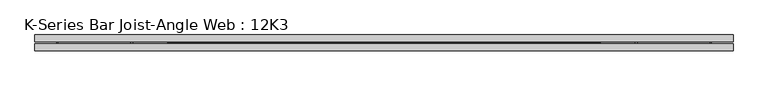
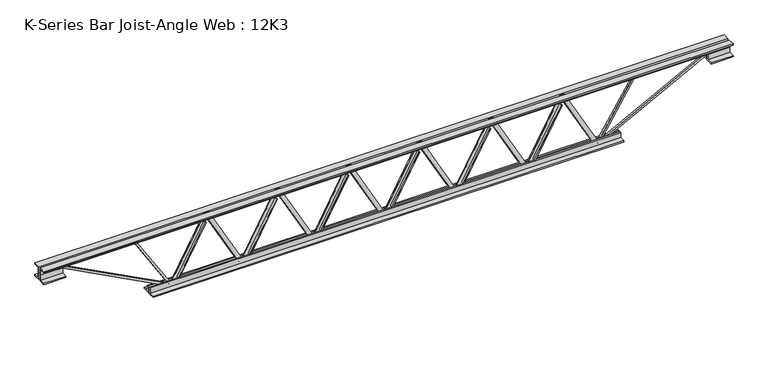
"""IFC4 building model written with IfcOpenShell, lengths in millimetres: beam geometry, K-Series Bar Joist-Angle Web : 12K3."""

from ifc_helpers import new_model, si_unit, frame, origin, place, context, project, spatial, polyline, outline, extrude, faceted_brep, source, transform, mapped, element, save


def k_series_bar_joist_angle_web_12k3_6a532fcc(model_context):
    return source(origin(), model_context, "Body", "SolidModel", [
        extrude(outline(polyline([(-4.7625, 4.7625), (-4.7625, 0.0), (-17.4625, 0.0), (-17.4625, 4.7625), (-4.7625, 4.7625)])), frame((630.375603, 0.0, -114.3), z_axis=(-0.47949246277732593, 0.0, 0.8775459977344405), x_axis=(0.0, -1.0, 0.0)), (0.0, 0.0, 1.0), 260.4991654),
        extrude(outline(polyline([(-149.225, 661.4583333), (-130.175, 661.4583333), (-130.175, 660.7579908), (149.225, 508.0934075), (149.225, 489.74375), (130.175, 489.74375), (130.175, 496.7940925), (-149.225, 649.4586759), (-149.225, 661.4583333)])), frame((0.0, 0.0, 0.0), z_axis=(0.0, 1.0, 0.0), x_axis=(0.0, 0.0, 1.0)), (0.0, 0.0, 1.0), 4.7625),
        faceted_brep([(330.7291667, 0.0, -130.175), (330.7291667, 0.0, -149.225), (330.7291667, -4.7625, -149.225), (330.7291667, -4.7625, -130.175), (331.4295092, 0.0, -130.175), (484.0940925, 0.0, 149.225), (502.44375, 0.0, 149.225), (502.44375, 0.0, 130.175), (495.3934075, 0.0, 130.175), (342.7288241, 0.0, -149.225), (342.7288241, -4.7625, -149.225), (361.811897, -4.7625, -114.3), (357.6325842, -4.7625, -112.0164171), (482.5399706, -4.7625, 116.5835829), (486.7192834, -4.7625, 114.3), (495.3934075, -4.7625, 130.175), (502.44375, -4.7625, 130.175), (502.44375, -4.7625, 149.225), (484.0940925, -4.7625, 149.225), (331.4295092, -4.7625, -130.175), (486.7192834, -17.4625, 114.3), (361.811897, -17.4625, -114.3), (357.6325842, -17.4625, -112.0164171), (482.5399706, -17.4625, 116.5835829)], [[[0, 1, 2, 3]], [[1, 0, 4, 5, 6, 7, 8, 9]], [[2, 1, 9, 10]], [[3, 2, 10, 11, 12, 13, 14, 15, 16, 17, 18, 19]], [[0, 3, 19, 4]], [[9, 8, 15, 14, 20, 21, 11, 10]], [[5, 4, 19, 18]], [[7, 6, 17, 16]], [[8, 7, 16, 15]], [[6, 5, 18, 17]], [[21, 22, 12, 11]], [[20, 14, 13, 23]], [[22, 21, 20, 23]], [[12, 22, 23, 13]]]),
        extrude(outline(polyline([(-4.7625, 4.7625), (-4.7625, 0.0), (-17.4625, 0.0), (-17.4625, 4.7625), (-4.7625, 4.7625)])), frame((299.6464363, 0.0, -114.3), z_axis=(-0.47949246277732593, 0.0, 0.8775459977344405), x_axis=(0.0, -1.0, 0.0)), (0.0, 0.0, 1.0), 260.4991654),
        extrude(outline(polyline([(-149.225, 330.7291667), (-130.175, 330.7291667), (-130.175, 330.0288241), (149.225, 177.3642408), (149.225, 159.0145833), (130.175, 159.0145833), (130.175, 166.0649259), (-149.225, 318.7295092), (-149.225, 330.7291667)])), frame((0.0, 0.0, 0.0), z_axis=(0.0, 1.0, 0.0), x_axis=(0.0, 0.0, 1.0)), (0.0, 0.0, 1.0), 4.7625),
        faceted_brep([(0.0, 0.0, -130.175), (0.0, 0.0, -149.225), (0.0, -4.7625, -149.225), (0.0, -4.7625, -130.175), (0.7003425, 0.0, -130.175), (153.3649259, 0.0, 149.225), (171.7145833, 0.0, 149.225), (171.7145833, 0.0, 130.175), (164.6642408, 0.0, 130.175), (11.9996575, 0.0, -149.225), (11.9996575, -4.7625, -149.225), (31.0827304, -4.7625, -114.3), (26.9034176, -4.7625, -112.0164171), (151.8108039, -4.7625, 116.5835829), (155.9901167, -4.7625, 114.3), (164.6642408, -4.7625, 130.175), (171.7145833, -4.7625, 130.175), (171.7145833, -4.7625, 149.225), (153.3649259, -4.7625, 149.225), (0.7003425, -4.7625, -130.175), (155.9901167, -17.4625, 114.3), (31.0827304, -17.4625, -114.3), (26.9034176, -17.4625, -112.0164171), (151.8108039, -17.4625, 116.5835829)], [[[0, 1, 2, 3]], [[1, 0, 4, 5, 6, 7, 8, 9]], [[2, 1, 9, 10]], [[3, 2, 10, 11, 12, 13, 14, 15, 16, 17, 18, 19]], [[0, 3, 19, 4]], [[9, 8, 15, 14, 20, 21, 11, 10]], [[5, 4, 19, 18]], [[7, 6, 17, 16]], [[8, 7, 16, 15]], [[6, 5, 18, 17]], [[21, 22, 12, 11]], [[20, 14, 13, 23]], [[22, 21, 20, 23]], [[12, 22, 23, 13]]]),
        extrude(outline(polyline([(-4.7625, 4.7625), (-4.7625, 0.0), (-17.4625, 0.0), (-17.4625, 4.7625), (-4.7625, 4.7625)])), frame((-31.0827304, 0.0, -114.3), z_axis=(-0.47949246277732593, 0.0, 0.8775459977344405), x_axis=(0.0, -1.0, 0.0)), (0.0, 0.0, 1.0), 260.4991654),
        extrude(outline(polyline([(-149.225, 0.0), (-130.175, 0.0), (-130.175, -0.7003425), (149.225, -153.3649259), (149.225, -171.7145833), (130.175, -171.7145833), (130.175, -164.6642408), (-149.225, -11.9996575), (-149.225, 0.0)])), frame((0.0, 0.0, 0.0), z_axis=(0.0, 1.0, 0.0), x_axis=(0.0, 0.0, 1.0)), (0.0, 0.0, 1.0), 4.7625),
        faceted_brep([(-330.7291667, 0.0, -130.175), (-330.7291667, 0.0, -149.225), (-330.7291667, -4.7625, -149.225), (-330.7291667, -4.7625, -130.175), (-330.0288241, 0.0, -130.175), (-177.3642408, 0.0, 149.225), (-159.0145833, 0.0, 149.225), (-159.0145833, 0.0, 130.175), (-166.0649259, 0.0, 130.175), (-318.7295092, 0.0, -149.225), (-318.7295092, -4.7625, -149.225), (-299.6464363, -4.7625, -114.3), (-303.8257491, -4.7625, -112.0164171), (-178.9183627, -4.7625, 116.5835829), (-174.7390499, -4.7625, 114.3), (-166.0649259, -4.7625, 130.175), (-159.0145833, -4.7625, 130.175), (-159.0145833, -4.7625, 149.225), (-177.3642408, -4.7625, 149.225), (-330.0288241, -4.7625, -130.175), (-174.7390499, -17.4625, 114.3), (-299.6464363, -17.4625, -114.3), (-303.8257491, -17.4625, -112.0164171), (-178.9183627, -17.4625, 116.5835829)], [[[0, 1, 2, 3]], [[1, 0, 4, 5, 6, 7, 8, 9]], [[2, 1, 9, 10]], [[3, 2, 10, 11, 12, 13, 14, 15, 16, 17, 18, 19]], [[0, 3, 19, 4]], [[9, 8, 15, 14, 20, 21, 11, 10]], [[5, 4, 19, 18]], [[7, 6, 17, 16]], [[8, 7, 16, 15]], [[6, 5, 18, 17]], [[21, 22, 12, 11]], [[20, 14, 13, 23]], [[22, 21, 20, 23]], [[12, 22, 23, 13]]]),
        extrude(outline(polyline([(-4.7625, 4.7625), (-4.7625, 0.0), (-17.4625, 0.0), (-17.4625, 4.7625), (-4.7625, 4.7625)])), frame((-361.811897, 0.0, -114.3), z_axis=(-0.47949246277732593, 0.0, 0.8775459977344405), x_axis=(0.0, -1.0, 0.0)), (0.0, 0.0, 1.0), 260.4991654),
        extrude(outline(polyline([(-149.225, -330.7291667), (-130.175, -330.7291667), (-130.175, -331.4295092), (149.225, -484.0940925), (149.225, -502.44375), (130.175, -502.44375), (130.175, -495.3934075), (-149.225, -342.7288241), (-149.225, -330.7291667)])), frame((0.0, 0.0, 0.0), z_axis=(0.0, 1.0, 0.0), x_axis=(0.0, 0.0, 1.0)), (0.0, 0.0, 1.0), 4.7625),
        faceted_brep([(-661.4583333, 0.0, -130.175), (-661.4583333, 0.0, -149.225), (-661.4583333, -4.7625, -149.225), (-661.4583333, -4.7625, -130.175), (-660.7579908, 0.0, -130.175), (-508.0934075, 0.0, 149.225), (-489.74375, 0.0, 149.225), (-489.74375, 0.0, 130.175), (-496.7940925, 0.0, 130.175), (-649.4586759, 0.0, -149.225), (-649.4586759, -4.7625, -149.225), (-630.375603, -4.7625, -114.3), (-634.5549158, -4.7625, -112.0164171), (-509.6475294, -4.7625, 116.5835829), (-505.4682166, -4.7625, 114.3), (-496.7940925, -4.7625, 130.175), (-489.74375, -4.7625, 130.175), (-489.74375, -4.7625, 149.225), (-508.0934075, -4.7625, 149.225), (-660.7579908, -4.7625, -130.175), (-505.4682166, -17.4625, 114.3), (-630.375603, -17.4625, -114.3), (-634.5549158, -17.4625, -112.0164171), (-509.6475294, -17.4625, 116.5835829)], [[[0, 1, 2, 3]], [[1, 0, 4, 5, 6, 7, 8, 9]], [[2, 1, 9, 10]], [[3, 2, 10, 11, 12, 13, 14, 15, 16, 17, 18, 19]], [[0, 3, 19, 4]], [[9, 8, 15, 14, 20, 21, 11, 10]], [[5, 4, 19, 18]], [[7, 6, 17, 16]], [[8, 7, 16, 15]], [[6, 5, 18, 17]], [[21, 22, 12, 11]], [[20, 14, 13, 23]], [[22, 21, 20, 23]], [[12, 22, 23, 13]]]),
        extrude(outline(polyline([(-4.7625, 4.7625), (-4.7625, 0.0), (-17.4625, 0.0), (-17.4625, 4.7625), (-4.7625, 4.7625)])), frame((961.1047696, 0.0, -114.3), z_axis=(-0.47949246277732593, 0.0, 0.8775459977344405), x_axis=(0.0, -1.0, 0.0)), (0.0, 0.0, 1.0), 260.4991654),
        extrude(outline(polyline([(-149.225, 992.1875), (-130.175, 992.1875), (-130.175, 991.4871575), (149.225, 838.8225741), (149.225, 820.4729167), (130.175, 820.4729167), (130.175, 827.5232592), (-149.225, 980.1878425), (-149.225, 992.1875)])), frame((0.0, 0.0, 0.0), z_axis=(0.0, 1.0, 0.0), x_axis=(0.0, 0.0, 1.0)), (0.0, 0.0, 1.0), 4.7625),
        faceted_brep([(661.4583333, 0.0, -130.175), (661.4583333, 0.0, -149.225), (661.4583333, -4.7625, -149.225), (661.4583333, -4.7625, -130.175), (662.1586759, 0.0, -130.175), (814.8232592, 0.0, 149.225), (833.1729167, 0.0, 149.225), (833.1729167, 0.0, 130.175), (826.1225741, 0.0, 130.175), (673.4579908, 0.0, -149.225), (673.4579908, -4.7625, -149.225), (692.5410637, -4.7625, -114.3), (688.3617509, -4.7625, -112.0164171), (813.2691373, -4.7625, 116.5835829), (817.4484501, -4.7625, 114.3), (826.1225741, -4.7625, 130.175), (833.1729167, -4.7625, 130.175), (833.1729167, -4.7625, 149.225), (814.8232592, -4.7625, 149.225), (662.1586759, -4.7625, -130.175), (817.4484501, -17.4625, 114.3), (692.5410637, -17.4625, -114.3), (688.3617509, -17.4625, -112.0164171), (813.2691373, -17.4625, 116.5835829)], [[[0, 1, 2, 3]], [[1, 0, 4, 5, 6, 7, 8, 9]], [[2, 1, 9, 10]], [[3, 2, 10, 11, 12, 13, 14, 15, 16, 17, 18, 19]], [[0, 3, 19, 4]], [[9, 8, 15, 14, 20, 21, 11, 10]], [[5, 4, 19, 18]], [[7, 6, 17, 16]], [[8, 7, 16, 15]], [[6, 5, 18, 17]], [[21, 22, 12, 11]], [[20, 14, 13, 23]], [[22, 21, 20, 23]], [[12, 22, 23, 13]]]),
        extrude(outline(polyline([(-4.7625, 4.7625), (-4.7625, 0.0), (-17.4625, 0.0), (-17.4625, 4.7625), (-4.7625, 4.7625)])), frame((-692.5410637, 0.0, -114.3), z_axis=(-0.47949246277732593, 0.0, 0.8775459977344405), x_axis=(0.0, -1.0, 0.0)), (0.0, 0.0, 1.0), 260.4991654),
        extrude(outline(polyline([(-149.225, -661.4583333), (-130.175, -661.4583333), (-130.175, -662.1586759), (149.225, -814.8232592), (149.225, -833.1729167), (130.175, -833.1729167), (130.175, -826.1225741), (-149.225, -673.4579908), (-149.225, -661.4583333)])), frame((0.0, 0.0, 0.0), z_axis=(0.0, 1.0, 0.0), x_axis=(0.0, 0.0, 1.0)), (0.0, 0.0, 1.0), 4.7625),
        faceted_brep([(-992.1875, 0.0, -130.175), (-992.1875, 0.0, -149.225), (-992.1875, -4.7625, -149.225), (-992.1875, -4.7625, -130.175), (-991.4871575, 0.0, -130.175), (-838.8225741, 0.0, 149.225), (-820.4729167, 0.0, 149.225), (-820.4729167, 0.0, 130.175), (-827.5232592, 0.0, 130.175), (-980.1878425, 0.0, -149.225), (-980.1878425, -4.7625, -149.225), (-961.1047696, -4.7625, -114.3), (-965.2840824, -4.7625, -112.0164171), (-840.3766961, -4.7625, 116.5835829), (-836.1973833, -4.7625, 114.3), (-827.5232592, -4.7625, 130.175), (-820.4729167, -4.7625, 130.175), (-820.4729167, -4.7625, 149.225), (-838.8225741, -4.7625, 149.225), (-991.4871575, -4.7625, -130.175), (-836.1973833, -17.4625, 114.3), (-961.1047696, -17.4625, -114.3), (-965.2840824, -17.4625, -112.0164171), (-840.3766961, -17.4625, 116.5835829)], [[[0, 1, 2, 3]], [[1, 0, 4, 5, 6, 7, 8, 9]], [[2, 1, 9, 10]], [[3, 2, 10, 11, 12, 13, 14, 15, 16, 17, 18, 19]], [[0, 3, 19, 4]], [[9, 8, 15, 14, 20, 21, 11, 10]], [[5, 4, 19, 18]], [[7, 6, 17, 16]], [[8, 7, 16, 15]], [[6, 5, 18, 17]], [[21, 22, 12, 11]], [[20, 14, 13, 23]], [[22, 21, 20, 23]], [[12, 22, 23, 13]]]),
        extrude(outline(polyline([(4.7625, 152.4), (36.5125, 152.4), (36.5125, 146.05), (11.1125, 146.05), (11.1125, 120.65), (4.7625, 120.65), (4.7625, 152.4)])), frame((-1601.7875, 0.0, 0.0), z_axis=(1.0, 0.0, 0.0), x_axis=(0.0, 1.0, 0.0)), (0.0, 0.0, 1.0), 3203.575),
        extrude(outline(polyline([(-4.7625, 152.4), (-4.7625, 120.65), (-11.1125, 120.65), (-11.1125, 146.05), (-36.5125, 146.05), (-36.5125, 152.4), (-4.7625, 152.4)])), frame((-1601.7875, 0.0, 0.0), z_axis=(1.0, 0.0, 0.0), x_axis=(0.0, 1.0, 0.0)), (0.0, 0.0, 1.0), 3203.575),
        extrude(outline(polyline([(-4.7625, 88.9), (-36.5125, 88.9), (-36.5125, 95.25), (-11.1125, 95.25), (-11.1125, 120.65), (-4.7625, 120.65), (-4.7625, 88.9)])), frame((-1601.7875, 0.0, 0.0), z_axis=(1.0, 0.0, 0.0), x_axis=(0.0, 1.0, 0.0)), (0.0, 0.0, 1.0), 101.6),
        extrude(outline(polyline([(36.5125, 88.9), (4.7625, 88.9), (4.7625, 120.65), (11.1125, 120.65), (11.1125, 95.25), (36.5125, 95.25), (36.5125, 88.9)])), frame((-1601.7875, 0.0, 0.0), z_axis=(1.0, 0.0, 0.0), x_axis=(0.0, 1.0, 0.0)), (0.0, 0.0, 1.0), 101.6),
        extrude(outline(polyline([(4.7625, 88.9), (4.7625, 120.65), (11.1125, 120.65), (11.1125, 95.25), (36.5125, 95.25), (36.5125, 88.9), (4.7625, 88.9)])), frame((1500.1875, 0.0, 0.0), z_axis=(1.0, 0.0, 0.0), x_axis=(0.0, 1.0, 0.0)), (0.0, 0.0, 1.0), 101.6),
        extrude(outline(polyline([(-4.7625, 88.9), (-36.5125, 88.9), (-36.5125, 95.25), (-11.1125, 95.25), (-11.1125, 120.65), (-4.7625, 120.65), (-4.7625, 88.9)])), frame((1500.1875, 0.0, 0.0), z_axis=(1.0, 0.0, 0.0), x_axis=(0.0, 1.0, 0.0)), (0.0, 0.0, 1.0), 101.6),
        extrude(outline(polyline([(4.7625, -152.4), (4.7625, -120.65), (11.1125, -120.65), (11.1125, -146.05), (36.5125, -146.05), (36.5125, -152.4), (4.7625, -152.4)])), frame((-1093.7875, 0.0, 0.0), z_axis=(1.0, 0.0, 0.0), x_axis=(0.0, 1.0, 0.0)), (0.0, 0.0, 1.0), 2187.575),
        extrude(outline(polyline([(-4.7625, -152.4), (-36.5125, -152.4), (-36.5125, -146.05), (-11.1125, -146.05), (-11.1125, -120.65), (-4.7625, -120.65), (-4.7625, -152.4)])), frame((-1093.7875, 0.0, 0.0), z_axis=(1.0, 0.0, 0.0), x_axis=(0.0, 1.0, 0.0)), (0.0, 0.0, 1.0), 2187.575),
        extrude(outline(polyline([(4.7625, 4.7625), (4.7625, -4.7625), (-4.7625, -4.7625), (-4.7625, 4.7625), (4.7625, 4.7625)])), frame((992.1875, 0.0, -146.05), z_axis=(0.5269640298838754, 0.0, 0.8498875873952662), x_axis=(0.0, -1.0, 0.0)), (0.0, 0.0, 1.0), 313.8062068),
        extrude(outline(polyline([(4.7625, 4.7625), (4.7625, -4.7625), (-4.7625, -4.7625), (-4.7625, 4.7625), (4.7625, 4.7625)])), frame((-992.1875, 0.0, -146.05), z_axis=(-0.5269640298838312, 0.0, 0.8498875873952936), x_axis=(0.0, -1.0, 0.0)), (0.0, 0.0, 1.0), 313.8062068),
        extrude(outline(polyline([(0.0, -9.525), (0.0, 0.0), (573.7533355, 0.0), (573.7533355, -9.525), (0.0, -9.525)])), frame((1502.4012714, -4.7625, 116.4332925), z_axis=(-0.4648338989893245, 0.0, 0.8853979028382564), x_axis=(-0.8853979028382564, 0.0, -0.4648338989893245)), (0.0, 0.0, 1.0), 9.525),
        extrude(outline(polyline([(0.0, -9.525), (0.0, 0.0), (573.7533355, 0.0), (573.7533355, -9.525), (0.0, -9.525)])), frame((-1502.4012714, 4.7625, 116.4332925), z_axis=(0.4648338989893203, 0.0, 0.8853979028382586), x_axis=(0.8853979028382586, 0.0, -0.4648338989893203)), (0.0, 0.0, 1.0), 9.525),
    ])


if __name__ == "__main__":
    model = new_model("IFC4")
    model_context = context("Model", 3, world=origin())
    ifc_project = project(units=[si_unit("LENGTHUNIT", "METRE", prefix="MILLI")], contexts=[model_context])
    site = spatial("IfcSite", under=ifc_project)
    building = spatial("IfcBuilding", under=site)
    placement = place(None, origin())
    k_series_bar_joist_angle_web_12k3_shape = k_series_bar_joist_angle_web_12k3_6a532fcc(model_context)
    element("IfcBeam", 1, ObjectType="K-Series Bar Joist-Angle Web : 12K3", at=placement, inside=building, context=model_context, shape_type="MappedRepresentation", body=[
        mapped(k_series_bar_joist_angle_web_12k3_shape, transform((0.0, 0.0, 0.0), x_axis=(1.0, 0.0, 0.0), y_axis=(0.0, 1.0, 0.0), z_axis=(0.0, 0.0, 1.0))),
    ])
    save(model, "model.ifc")
